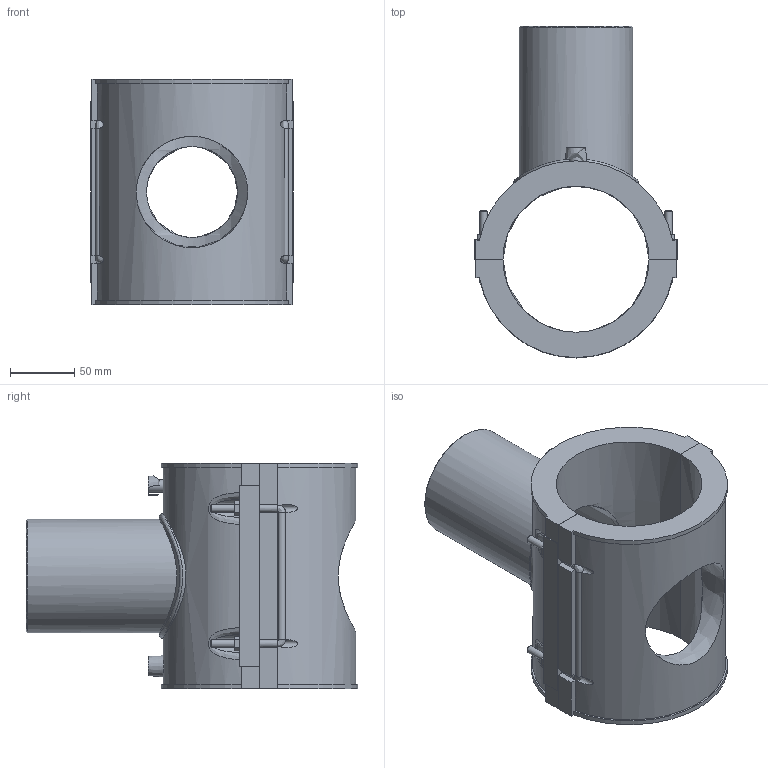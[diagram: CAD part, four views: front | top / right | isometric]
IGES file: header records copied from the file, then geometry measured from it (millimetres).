
Global section: file name: 5958BB03040030.ipt; native system: Autodesk Inventor 2019; preprocessor: unknown; author: KIM; date: 20210830.101256; units: inch
Bounding box: 158.46 x 259.12 x 176.02 mm (x, y, z)
Volume: 1438211.7 mm3; surface area: 234728.4 mm2
Topology: 1 solids, 2 shells, 149 faces, 382 edges, 250 vertices
Faces by surface type: plane 95, cylinder 24, revolution 18, cone 7, bspline 5
Full cylindrical faces by diameter (mm): 4 x2, 6 x8, 88.7 x1, 97.57 x1
